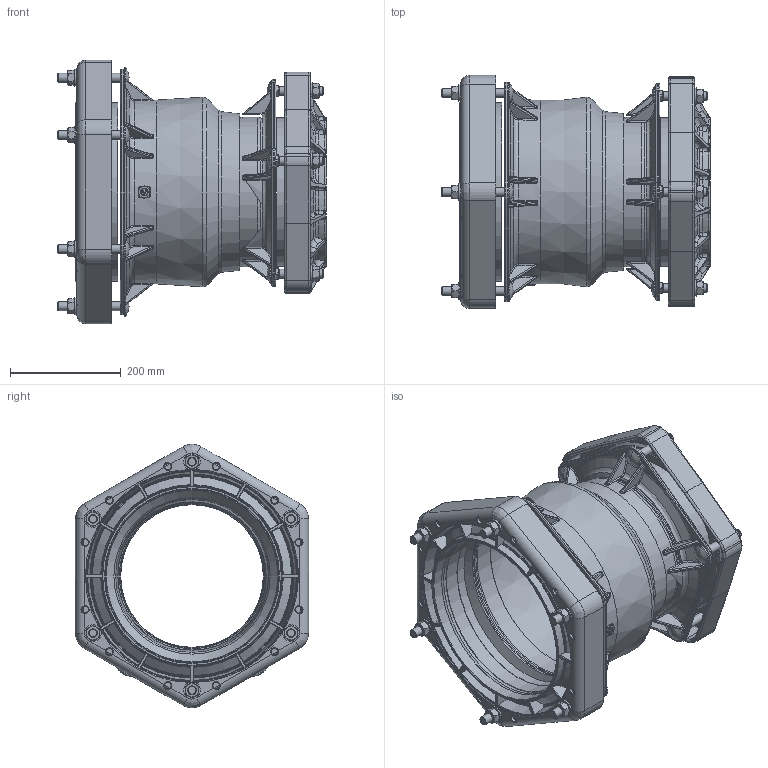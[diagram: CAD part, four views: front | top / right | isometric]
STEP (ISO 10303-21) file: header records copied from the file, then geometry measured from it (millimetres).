
FILE_DESCRIPTION((''),'2;1');
FILE_NAME('P:\Fastrack\54361_VIKING JOHNSON 3D\ULTRAGRIP\Component Parts\Components Built up\Stepped Coupling Assembly\200-250MM-UltraGrip-Stepped-Coupling-Assembly.stp','2012-05-03T12:36:50',('dcole'),(''),'Autodesk Inventor 2008','Autodesk Inventor 2008','');
FILE_SCHEMA(('AUTOMOTIVE_DESIGN { 1 0 10303 214 1 1 1 1 }'));
Length unit declared in the file: millimetre
Products named in the file (1): 200-250MM-UltraGrip-Stepped-Coupling-Assembly
Bounding box: 483.83 x 420.49 x 475.68 mm (x, y, z)
Surface area: 1770691.4 mm2 (no closed solid volume)
Topology: 0 solids, 1 shells, 2535 faces, 6794 edges, 4294 vertices
Faces by surface type: bspline 650, plane 635, cone 611, cylinder 543, torus 96
Full cylindrical faces by diameter (mm): 12.183 x12, 13 x1, 15.7 x10, 15.8 x12, 16 x11, 30 x11, 35.2 x5, 36 x6, 257 x1, 259 x4, 268 x1, 309.5 x1, 311.5 x2, 321.5 x1
Entity records: 135378 total; most frequent: CARTESIAN_POINT 73560, ORIENTED_EDGE 13128, DIRECTION 11315, EDGE_CURVE 6564, AXIS2_PLACEMENT_3D 4361, VERTEX_POINT 4231, EDGE_LOOP 2781, VECTOR 2593
